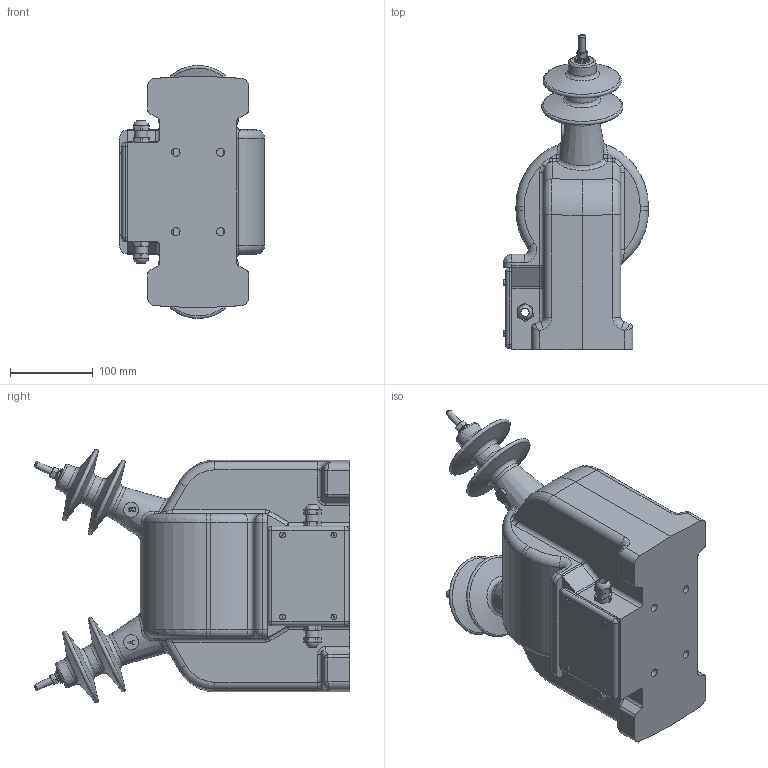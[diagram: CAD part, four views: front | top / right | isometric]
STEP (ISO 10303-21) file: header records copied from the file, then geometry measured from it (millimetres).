
FILE_DESCRIPTION(('STEP AP203'), '1');
FILE_NAME('ﾎﾋ-ﾍﾒﾇ-0,63-6(10)-IV', '2021-08-27T10:56:29', ('UNSPECIFIED'), ('UNSPECIFIED'), 'ASCON STEP Converter 1.3', 'ASCON Math Kernel', '');
FILE_SCHEMA(('CONFIG_CONTROL_DESIGN'));
Length unit declared in the file: millimetre
Products named in the file (8): 1
Assembly tree (14 placements, depth 2):
  1
    (unnamed)
    (unnamed)
    (unnamed)  x2
    (unnamed)  x4
    (unnamed)  x2
    (unnamed)  x2
    (unnamed)  x2
Bounding box: 175.1 x 380.6 x 305.48 mm (x, y, z)
Volume: 4783704.1 mm3; surface area: 560138.6 mm2
Topology: 14 solids, 14 shells, 595 faces, 1426 edges, 870 vertices
Faces by surface type: cylinder 251, plane 214, bspline 52, torus 36, cone 34, sphere 8
Full cylindrical faces by diameter (mm): 4 x8, 5 x4, 6.647 x2, 7 x4, 8 x2, 8.4 x2, 10 x6, 16 x8, 18 x4, 100 x2, 107 x1, 135 x2
Entity records: 25714 total; most frequent: CARTESIAN_POINT 9583, DIRECTION 2461, ORIENTED_EDGE 2286, EDGE_CURVE 1145, AXIS2_PLACEMENT_3D 976, VERTEX_POINT 746, EDGE_LOOP 635, COLOUR_RGB 516
